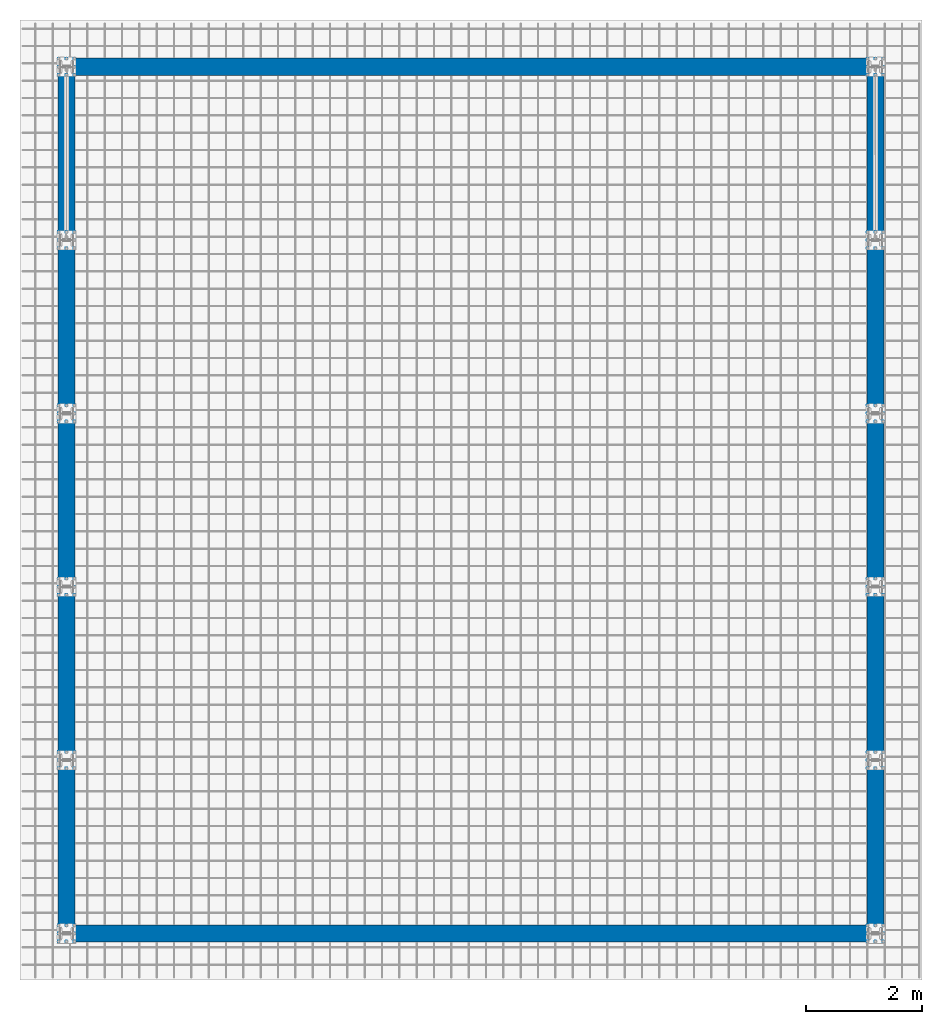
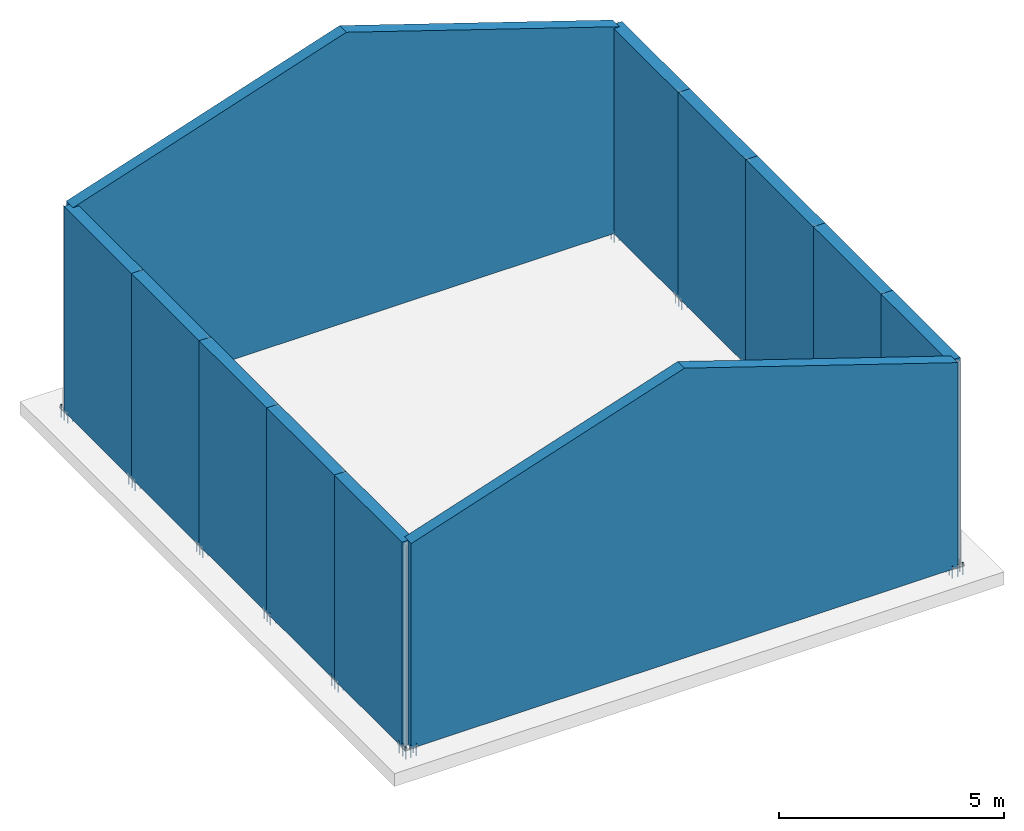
# One storey, part 4 of 29: 12 walls, 1 reinforcing bar.
"""IFC4 building model written with IfcOpenShell, lengths in metres."""

from ifc_helpers import new_model, entity, si_unit, frame, origin_with_axes, place, context, project, spatial, polyline, outline, extrude, source, transform, mapped, material, element, save


model = new_model("IFC4")

# Units and contexts
model_context = context("Model", 3, precision=1e-05, world=origin_with_axes())
ifc_project = project(units=[si_unit("LENGTHUNIT", "METRE"), si_unit("AREAUNIT", "SQUARE_METRE"), si_unit("VOLUMEUNIT", "CUBIC_METRE"), si_unit("MASSUNIT", "GRAM", prefix="KILO"), si_unit("TIMEUNIT", "SECOND"), si_unit("PLANEANGLEUNIT", "RADIAN"), si_unit("SOLIDANGLEUNIT", "STERADIAN"), si_unit("THERMODYNAMICTEMPERATUREUNIT", "DEGREE_CELSIUS")], contexts=[model_context])

# Site, building, storey
placement_1 = place(None, origin_with_axes())
site = spatial("IfcSite", under=ifc_project, at=placement_1, Name="Italia", CompositionType="ELEMENT")
building = spatial("IfcBuilding", under=site, at=placement_1, Name="Capannone", CompositionType="ELEMENT")
storey = spatial("IfcBuildingStorey", under=building, at=placement_1, Name="Storey 0", CompositionType="ELEMENT", Elevation=0.0)

# Walls
ifc_material_1 = material(Name="Tamponatura", Category="Tamponatura")
placement_2 = place(placement_1, origin_with_axes())
wall_1_placement = place(placement_2, origin_with_axes())
element("IfcWall", 1, at=wall_1_placement, inside=storey, material=ifc_material_1, Name="102", context=model_context, shape_type="SweptSolid", body=[
    extrude(outline(polyline([(0.0, 0.0), (0.0, 5.55), (-1.0, 5.87857), (-2.0, 6.20714), (-3.0, 6.53571), (-4.0, 6.86429), (-5.0, 7.19286), (-6.0, 7.52143), (-7.0, 7.85), (-8.0, 7.52143), (-9.0, 7.19286), (-10.0, 6.86429), (-11.0, 6.53571), (-12.0, 6.20714), (-13.0, 5.87857), (-14.0, 5.55), (-14.0, 0.0), (-13.5, 0.0), (-13.0, 0.0), (-12.5, 0.0), (-12.0, 0.0), (-11.5, 0.0), (-11.0, 0.0), (-10.5, 0.0), (-10.0, 0.0), (-9.5, 0.0), (-9.0, 0.0), (-8.5, 0.0), (-8.0, 0.0), (-7.5, 0.0), (-7.0, 0.0), (-6.5, 0.0), (-6.0, 0.0), (-5.5, 0.0), (-5.0, 0.0), (-4.5, 0.0), (-4.0, 0.0), (-3.5, 0.0), (-3.0, 0.0), (-2.5, 0.0), (-2.0, 0.0), (-1.5, 0.0), (-1.0, 0.0), (-0.5, 0.0), (0.0, 0.0)])), frame((14.0, 15.15, 0.0), z_axis=(0.0, -1.0, 0.0), x_axis=(1.0, 0.0, 0.0)), (0.0, 0.0, 1.0), 0.299999),
])
ifc_material_2 = material(Name="Tamponatura", Category="Tamponatura")
wall_2_placement = place(placement_2, origin_with_axes())
element("IfcWall", 2, at=wall_2_placement, inside=storey, material=ifc_material_2, Name="112", context=model_context, shape_type="SweptSolid", body=[
    extrude(outline(polyline([(0.0, 0.0), (-3.0, 0.0), (-3.0, -5.55), (-2.5, -5.55), (-2.0, -5.55), (-1.5, -5.55), (-1.0, -5.55), (-0.5, -5.55), (0.0, -5.55), (0.0, 0.0)])), frame((13.85, 15.0, 5.55), z_axis=(1.0, 0.0, 0.0), x_axis=(0.0, 1.0, 0.0)), (0.0, 0.0, 1.0), 0.299999),
])
ifc_material_3 = material(Name="Tamponatura", Category="Tamponatura")
wall_3_placement = place(placement_2, origin_with_axes())
element("IfcWall", 3, at=wall_3_placement, inside=storey, material=ifc_material_3, Name="101", context=model_context, shape_type="SweptSolid", body=[
    extrude(outline(polyline([(0.0, 0.0), (0.0, 5.55), (-1.0, 5.87857), (-2.0, 6.20714), (-3.0, 6.53571), (-4.0, 6.86429), (-5.0, 7.19286), (-6.0, 7.52143), (-7.0, 7.85), (-8.0, 7.52143), (-9.0, 7.19286), (-10.0, 6.86429), (-11.0, 6.53571), (-12.0, 6.20714), (-13.0, 5.87857), (-14.0, 5.55), (-14.0, 0.0), (-13.5, 0.0), (-13.0, 0.0), (-12.5, 0.0), (-12.0, 0.0), (-11.5, 0.0), (-11.0, 0.0), (-10.5, 0.0), (-10.0, 0.0), (-9.5, 0.0), (-9.0, 0.0), (-8.5, 0.0), (-8.0, 0.0), (-7.5, 0.0), (-7.0, 0.0), (-6.5, 0.0), (-6.0, 0.0), (-5.5, 0.0), (-5.0, 0.0), (-4.5, 0.0), (-4.0, 0.0), (-3.5, 0.0), (-3.0, 0.0), (-2.5, 0.0), (-2.0, 0.0), (-1.5, 0.0), (-1.0, 0.0), (-0.5, 0.0), (0.0, 0.0)])), frame((0.0, -0.15, 0.0), z_axis=(0.0, 1.0, 5.33876e-09), x_axis=(-1.0, 0.0, 0.0)), (0.0, 0.0, 1.0), 0.3),
])
ifc_material_4 = material(Name="Tamponatura", Category="Tamponatura")
wall_4_placement = place(placement_2, origin_with_axes())
element("IfcWall", 4, at=wall_4_placement, inside=storey, material=ifc_material_4, Name="111", context=model_context, shape_type="SweptSolid", body=[
    extrude(outline(polyline([(0.0, 0.0), (-3.0, 0.0), (-3.0, -5.55), (-2.5, -5.55), (-2.0, -5.55), (-1.5, -5.55), (-1.0, -5.55), (-0.5, -5.55), (0.0, -5.55), (0.0, 0.0)])), frame((13.85, 12.0, 5.55), z_axis=(1.0, 0.0, 0.0), x_axis=(0.0, 1.0, 0.0)), (0.0, 0.0, 1.0), 0.299999),
])
ifc_material_5 = material(Name="Tamponatura", Category="Tamponatura")
wall_5_placement = place(placement_2, origin_with_axes())
element("IfcWall", 5, at=wall_5_placement, inside=storey, material=ifc_material_5, Name="108", context=model_context, shape_type="SweptSolid", body=[
    extrude(outline(polyline([(0.0, 0.0), (-3.0, 0.0), (-3.0, -5.55), (-2.5, -5.55), (-2.0, -5.55), (-1.5, -5.55), (-1.0, -5.55), (-0.5, -5.55), (0.0, -5.55), (0.0, 0.0)])), frame((13.85, 3.0, 5.55), z_axis=(1.0, 0.0, 0.0), x_axis=(0.0, 1.0, 0.0)), (0.0, 0.0, 1.0), 0.299999),
])
ifc_material_6 = material(Name="Tamponatura", Category="Tamponatura")
wall_6_placement = place(placement_2, origin_with_axes())
element("IfcWall", 6, at=wall_6_placement, inside=storey, material=ifc_material_6, Name="103", context=model_context, shape_type="SweptSolid", body=[
    extrude(outline(polyline([(0.0, 0.0), (-3.0, 0.0), (-3.0, -5.55), (-2.5, -5.55), (-2.0, -5.55), (-1.5, -5.55), (-1.0, -5.55), (-0.5, -5.55), (0.0, -5.55), (0.0, 0.0)])), frame((-0.15, 3.0, 5.55), z_axis=(1.0, 0.0, 0.0), x_axis=(0.0, 1.0, 0.0)), (0.0, 0.0, 1.0), 0.3),
])
ifc_material_7 = material(Name="Tamponatura", Category="Tamponatura")
wall_7_placement = place(placement_2, origin_with_axes())
element("IfcWall", 7, at=wall_7_placement, inside=storey, material=ifc_material_7, Name="104", context=model_context, shape_type="SweptSolid", body=[
    extrude(outline(polyline([(0.0, 0.0), (-3.0, 0.0), (-3.0, -5.55), (-2.5, -5.55), (-2.0, -5.55), (-1.5, -5.55), (-1.0, -5.55), (-0.5, -5.55), (0.0, -5.55), (0.0, 0.0)])), frame((-0.15, 6.0, 5.55), z_axis=(1.0, 0.0, 0.0), x_axis=(0.0, 1.0, 0.0)), (0.0, 0.0, 1.0), 0.3),
])
ifc_material_8 = material(Name="Tamponatura", Category="Tamponatura")
wall_8_placement = place(placement_2, origin_with_axes())
element("IfcWall", 8, at=wall_8_placement, inside=storey, material=ifc_material_8, Name="105", context=model_context, shape_type="SweptSolid", body=[
    extrude(outline(polyline([(0.0, 0.0), (-3.0, 0.0), (-3.0, -5.55), (-2.5, -5.55), (-2.0, -5.55), (-1.5, -5.55), (-1.0, -5.55), (-0.5, -5.55), (0.0, -5.55), (0.0, 0.0)])), frame((-0.15, 9.0, 5.55), z_axis=(1.0, 0.0, 0.0), x_axis=(0.0, 1.0, 0.0)), (0.0, 0.0, 1.0), 0.3),
])
ifc_material_9 = material(Name="Tamponatura", Category="Tamponatura")
wall_9_placement = place(placement_2, origin_with_axes())
element("IfcWall", 9, at=wall_9_placement, inside=storey, material=ifc_material_9, Name="106", context=model_context, shape_type="SweptSolid", body=[
    extrude(outline(polyline([(0.0, 0.0), (-3.0, 0.0), (-3.0, -5.55), (-2.5, -5.55), (-2.0, -5.55), (-1.5, -5.55), (-1.0, -5.55), (-0.5, -5.55), (0.0, -5.55), (0.0, 0.0)])), frame((-0.15, 12.0, 5.55), z_axis=(1.0, 0.0, 0.0), x_axis=(0.0, 1.0, 0.0)), (0.0, 0.0, 1.0), 0.3),
])
ifc_material_10 = material(Name="Tamponatura", Category="Tamponatura")
wall_10_placement = place(placement_2, origin_with_axes())
element("IfcWall", 10, at=wall_10_placement, inside=storey, material=ifc_material_10, Name="107", context=model_context, shape_type="SweptSolid", body=[
    extrude(outline(polyline([(0.0, 0.0), (-3.0, 0.0), (-3.0, -5.55), (-2.5, -5.55), (-2.0, -5.55), (-1.5, -5.55), (-1.0, -5.55), (-0.5, -5.55), (0.0, -5.55), (0.0, 0.0)])), frame((-0.15, 15.0, 5.55), z_axis=(1.0, 0.0, 0.0), x_axis=(0.0, 1.0, 0.0)), (0.0, 0.0, 1.0), 0.3),
])
ifc_material_11 = material(Name="Tamponatura", Category="Tamponatura")
wall_11_placement = place(placement_2, origin_with_axes())
element("IfcWall", 11, at=wall_11_placement, inside=storey, material=ifc_material_11, Name="110", context=model_context, shape_type="SweptSolid", body=[
    extrude(outline(polyline([(0.0, 0.0), (-3.0, 0.0), (-3.0, -5.55), (-2.5, -5.55), (-2.0, -5.55), (-1.5, -5.55), (-1.0, -5.55), (-0.5, -5.55), (0.0, -5.55), (0.0, 0.0)])), frame((13.85, 9.0, 5.55), z_axis=(1.0, 0.0, 0.0), x_axis=(0.0, 1.0, 0.0)), (0.0, 0.0, 1.0), 0.299999),
])
ifc_material_12 = material(Name="Tamponatura", Category="Tamponatura")
wall_12_placement = place(placement_2, origin_with_axes())
element("IfcWall", 12, at=wall_12_placement, inside=storey, material=ifc_material_12, Name="109", context=model_context, shape_type="SweptSolid", body=[
    extrude(outline(polyline([(0.0, 0.0), (-3.0, 0.0), (-3.0, -5.55), (-2.5, -5.55), (-2.0, -5.55), (-1.5, -5.55), (-1.0, -5.55), (-0.5, -5.55), (0.0, -5.55), (0.0, 0.0)])), frame((13.85, 6.0, 5.55), z_axis=(1.0, 0.0, 0.0), x_axis=(0.0, 1.0, 0.0)), (0.0, 0.0, 1.0), 0.299999),
])

# Reinforcing bar
shared_shape = source(origin_with_axes(), model_context, "Body", "AdvancedSweptSolid", [
    entity("IfcSweptDiskSolid", entity("IfcIndexedPolyCurve", entity("IfcCartesianPointList3D", [[0.135, -0.14, 0.09], [0.135, -0.14, -0.243]]), [entity("IfcLineIndex", [1, 2])], False), 0.011),
])
reinforcing_bar_placement = place(placement_2, origin_with_axes())
element("IfcReinforcingBar", 13, at=reinforcing_bar_placement, inside=storey, BarLength=0.333, CrossSectionArea=0.00038013, NominalDiameter=0.022, context=model_context, shape_type="MappedRepresentation", body=[
    mapped(shared_shape, transform((0.0, 6.0, 0.0), x_axis=(1.0, 0.0, 0.0), y_axis=(0.0, 1.0, 0.0), z_axis=(0.0, 0.0, 1.0), scale=1.0)),
    mapped(shared_shape, transform((13.73, 3.28, 0.0), x_axis=(1.0, 0.0, 0.0), y_axis=(0.0, 1.0, 0.0), z_axis=(0.0, 0.0, 1.0), scale=1.0)),
    mapped(shared_shape, transform((13.73, 3.14, 0.0), x_axis=(1.0, 0.0, 0.0), y_axis=(0.0, 1.0, 0.0), z_axis=(0.0, 0.0, 1.0), scale=1.0)),
    mapped(shared_shape, transform((-0.135, 6.0, 0.0), x_axis=(1.0, 0.0, 0.0), y_axis=(0.0, 1.0, 0.0), z_axis=(0.0, 0.0, 1.0), scale=1.0)),
    mapped(shared_shape, transform((0.0, 6.28, 0.0), x_axis=(1.0, 0.0, 0.0), y_axis=(0.0, 1.0, 0.0), z_axis=(0.0, 0.0, 1.0), scale=1.0)),
    mapped(shared_shape, transform((0.0, 6.14, 0.0), x_axis=(1.0, 0.0, 0.0), y_axis=(0.0, 1.0, 0.0), z_axis=(0.0, 0.0, 1.0), scale=1.0)),
    mapped(shared_shape, transform((14.0, 3.28, 0.0), x_axis=(1.0, 0.0, 0.0), y_axis=(0.0, 1.0, 0.0), z_axis=(0.0, 0.0, 1.0), scale=1.0)),
    mapped(shared_shape, transform((14.0, 3.14, 0.0), x_axis=(1.0, 0.0, 0.0), y_axis=(0.0, 1.0, 0.0), z_axis=(0.0, 0.0, 1.0), scale=1.0)),
    mapped(shared_shape, transform((14.0, 3.0, 0.0), x_axis=(1.0, 0.0, 0.0), y_axis=(0.0, 1.0, 0.0), z_axis=(0.0, 0.0, 1.0), scale=1.0)),
    mapped(shared_shape, transform((13.73, 3.0, 0.0), x_axis=(1.0, 0.0, 0.0), y_axis=(0.0, 1.0, 0.0), z_axis=(0.0, 0.0, 1.0), scale=1.0)),
    mapped(shared_shape, transform((13.865, 3.28, 0.0), x_axis=(1.0, 0.0, 0.0), y_axis=(0.0, 1.0, 0.0), z_axis=(0.0, 0.0, 1.0), scale=1.0)),
    mapped(shared_shape, transform((13.865, 3.0, 0.0), x_axis=(1.0, 0.0, 0.0), y_axis=(0.0, 1.0, 0.0), z_axis=(0.0, 0.0, 1.0), scale=1.0)),
    mapped(shared_shape, transform((13.865, 6.28, 0.0), x_axis=(1.0, 0.0, 0.0), y_axis=(0.0, 1.0, 0.0), z_axis=(0.0, 0.0, 1.0), scale=1.0)),
    mapped(shared_shape, transform((13.865, 6.0, 0.0), x_axis=(1.0, 0.0, 0.0), y_axis=(0.0, 1.0, 0.0), z_axis=(0.0, 0.0, 1.0), scale=1.0)),
    mapped(shared_shape, transform((14.0, 6.28, 0.0), x_axis=(1.0, 0.0, 0.0), y_axis=(0.0, 1.0, 0.0), z_axis=(0.0, 0.0, 1.0), scale=1.0)),
    mapped(shared_shape, transform((13.73, 6.28, 0.0), x_axis=(1.0, 0.0, 0.0), y_axis=(0.0, 1.0, 0.0), z_axis=(0.0, 0.0, 1.0), scale=1.0)),
    mapped(shared_shape, transform((13.73, 6.14, 0.0), x_axis=(1.0, 0.0, 0.0), y_axis=(0.0, 1.0, 0.0), z_axis=(0.0, 0.0, 1.0), scale=1.0)),
    mapped(shared_shape, transform((13.73, 6.0, 0.0), x_axis=(1.0, 0.0, 0.0), y_axis=(0.0, 1.0, 0.0), z_axis=(0.0, 0.0, 1.0), scale=1.0)),
    mapped(shared_shape, transform((-0.27, 6.14, 0.0), x_axis=(1.0, 0.0, 0.0), y_axis=(0.0, 1.0, 0.0), z_axis=(0.0, 0.0, 1.0), scale=1.0)),
    mapped(shared_shape, transform((-0.27, 6.0, 0.0), x_axis=(1.0, 0.0, 0.0), y_axis=(0.0, 1.0, 0.0), z_axis=(0.0, 0.0, 1.0), scale=1.0)),
    mapped(shared_shape, transform((-0.135, 6.28, 0.0), x_axis=(1.0, 0.0, 0.0), y_axis=(0.0, 1.0, 0.0), z_axis=(0.0, 0.0, 1.0), scale=1.0)),
    mapped(shared_shape, transform((14.0, 6.14, 0.0), x_axis=(1.0, 0.0, 0.0), y_axis=(0.0, 1.0, 0.0), z_axis=(0.0, 0.0, 1.0), scale=1.0)),
    mapped(shared_shape, transform((14.0, 6.0, 0.0), x_axis=(1.0, 0.0, 0.0), y_axis=(0.0, 1.0, 0.0), z_axis=(0.0, 0.0, 1.0), scale=1.0)),
    mapped(shared_shape, transform((-0.27, 6.28, 0.0), x_axis=(1.0, 0.0, 0.0), y_axis=(0.0, 1.0, 0.0), z_axis=(0.0, 0.0, 1.0), scale=1.0)),
    mapped(shared_shape, transform((14.0, 0.0, 0.0), x_axis=(1.0, 0.0, 0.0), y_axis=(0.0, 1.0, 0.0), z_axis=(0.0, 0.0, 1.0), scale=1.0)),
    mapped(shared_shape, transform((-0.27, 0.28, 0.0), x_axis=(1.0, 0.0, 0.0), y_axis=(0.0, 1.0, 0.0), z_axis=(0.0, 0.0, 1.0), scale=1.0)),
    mapped(shared_shape, transform((-0.27, 0.14, 0.0), x_axis=(1.0, 0.0, 0.0), y_axis=(0.0, 1.0, 0.0), z_axis=(0.0, 0.0, 1.0), scale=1.0)),
    mapped(shared_shape, transform((13.865, 0.0, 0.0), x_axis=(1.0, 0.0, 0.0), y_axis=(0.0, 1.0, 0.0), z_axis=(0.0, 0.0, 1.0), scale=1.0)),
    mapped(shared_shape, transform((14.0, 0.28, 0.0), x_axis=(1.0, 0.0, 0.0), y_axis=(0.0, 1.0, 0.0), z_axis=(0.0, 0.0, 1.0), scale=1.0)),
    mapped(shared_shape, transform((14.0, 0.14, 0.0), x_axis=(1.0, 0.0, 0.0), y_axis=(0.0, 1.0, 0.0), z_axis=(0.0, 0.0, 1.0), scale=1.0)),
    mapped(shared_shape, transform((0.0, 0.28, 0.0), x_axis=(1.0, 0.0, 0.0), y_axis=(0.0, 1.0, 0.0), z_axis=(0.0, 0.0, 1.0), scale=1.0)),
    mapped(shared_shape, transform((0.0, 0.14, 0.0), x_axis=(1.0, 0.0, 0.0), y_axis=(0.0, 1.0, 0.0), z_axis=(0.0, 0.0, 1.0), scale=1.0)),
    mapped(shared_shape, transform((0.0, 0.0, 0.0), x_axis=(1.0, 0.0, 0.0), y_axis=(0.0, 1.0, 0.0), z_axis=(0.0, 0.0, 1.0), scale=1.0)),
    mapped(shared_shape, transform((-0.27, 0.0, 0.0), x_axis=(1.0, 0.0, 0.0), y_axis=(0.0, 1.0, 0.0), z_axis=(0.0, 0.0, 1.0), scale=1.0)),
    mapped(shared_shape, transform((-0.135, 0.28, 0.0), x_axis=(1.0, 0.0, 0.0), y_axis=(0.0, 1.0, 0.0), z_axis=(0.0, 0.0, 1.0), scale=1.0)),
    mapped(shared_shape, transform((-0.135, 0.0, 0.0), x_axis=(1.0, 0.0, 0.0), y_axis=(0.0, 1.0, 0.0), z_axis=(0.0, 0.0, 1.0), scale=1.0)),
    mapped(shared_shape, transform((-0.135, 3.28, 0.0), x_axis=(1.0, 0.0, 0.0), y_axis=(0.0, 1.0, 0.0), z_axis=(0.0, 0.0, 1.0), scale=1.0)),
    mapped(shared_shape, transform((-0.135, 3.0, 0.0), x_axis=(1.0, 0.0, 0.0), y_axis=(0.0, 1.0, 0.0), z_axis=(0.0, 0.0, 1.0), scale=1.0)),
    mapped(shared_shape, transform((0.0, 3.28, 0.0), x_axis=(1.0, 0.0, 0.0), y_axis=(0.0, 1.0, 0.0), z_axis=(0.0, 0.0, 1.0), scale=1.0)),
    mapped(shared_shape, transform((-0.27, 3.28, 0.0), x_axis=(1.0, 0.0, 0.0), y_axis=(0.0, 1.0, 0.0), z_axis=(0.0, 0.0, 1.0), scale=1.0)),
    mapped(shared_shape, transform((-0.27, 3.14, 0.0), x_axis=(1.0, 0.0, 0.0), y_axis=(0.0, 1.0, 0.0), z_axis=(0.0, 0.0, 1.0), scale=1.0)),
    mapped(shared_shape, transform((-0.27, 3.0, 0.0), x_axis=(1.0, 0.0, 0.0), y_axis=(0.0, 1.0, 0.0), z_axis=(0.0, 0.0, 1.0), scale=1.0)),
    mapped(shared_shape, transform((13.73, 0.14, 0.0), x_axis=(1.0, 0.0, 0.0), y_axis=(0.0, 1.0, 0.0), z_axis=(0.0, 0.0, 1.0), scale=1.0)),
    mapped(shared_shape, transform((13.73, 0.0, 0.0), x_axis=(1.0, 0.0, 0.0), y_axis=(0.0, 1.0, 0.0), z_axis=(0.0, 0.0, 1.0), scale=1.0)),
    mapped(shared_shape, transform((13.865, 0.28, 0.0), x_axis=(1.0, 0.0, 0.0), y_axis=(0.0, 1.0, 0.0), z_axis=(0.0, 0.0, 1.0), scale=1.0)),
    mapped(shared_shape, transform((0.0, 3.14, 0.0), x_axis=(1.0, 0.0, 0.0), y_axis=(0.0, 1.0, 0.0), z_axis=(0.0, 0.0, 1.0), scale=1.0)),
    mapped(shared_shape, transform((0.0, 3.0, 0.0), x_axis=(1.0, 0.0, 0.0), y_axis=(0.0, 1.0, 0.0), z_axis=(0.0, 0.0, 1.0), scale=1.0)),
    mapped(shared_shape, transform((13.73, 0.28, 0.0), x_axis=(1.0, 0.0, 0.0), y_axis=(0.0, 1.0, 0.0), z_axis=(0.0, 0.0, 1.0), scale=1.0)),
    mapped(shared_shape, transform((0.0, 15.0, 0.0), x_axis=(1.0, 0.0, 0.0), y_axis=(0.0, 1.0, 0.0), z_axis=(0.0, 0.0, 1.0), scale=1.0)),
    mapped(shared_shape, transform((13.73, 12.28, 0.0), x_axis=(1.0, 0.0, 0.0), y_axis=(0.0, 1.0, 0.0), z_axis=(0.0, 0.0, 1.0), scale=1.0)),
    mapped(shared_shape, transform((13.73, 12.14, 0.0), x_axis=(1.0, 0.0, 0.0), y_axis=(0.0, 1.0, 0.0), z_axis=(0.0, 0.0, 1.0), scale=1.0)),
    mapped(shared_shape, transform((-0.135, 15.0, 0.0), x_axis=(1.0, 0.0, 0.0), y_axis=(0.0, 1.0, 0.0), z_axis=(0.0, 0.0, 1.0), scale=1.0)),
    mapped(shared_shape, transform((0.0, 15.28, 0.0), x_axis=(1.0, 0.0, 0.0), y_axis=(0.0, 1.0, 0.0), z_axis=(0.0, 0.0, 1.0), scale=1.0)),
    mapped(shared_shape, transform((0.0, 15.14, 0.0), x_axis=(1.0, 0.0, 0.0), y_axis=(0.0, 1.0, 0.0), z_axis=(0.0, 0.0, 1.0), scale=1.0)),
    mapped(shared_shape, transform((14.0, 12.28, 0.0), x_axis=(1.0, 0.0, 0.0), y_axis=(0.0, 1.0, 0.0), z_axis=(0.0, 0.0, 1.0), scale=1.0)),
    mapped(shared_shape, transform((14.0, 12.14, 0.0), x_axis=(1.0, 0.0, 0.0), y_axis=(0.0, 1.0, 0.0), z_axis=(0.0, 0.0, 1.0), scale=1.0)),
    mapped(shared_shape, transform((14.0, 12.0, 0.0), x_axis=(1.0, 0.0, 0.0), y_axis=(0.0, 1.0, 0.0), z_axis=(0.0, 0.0, 1.0), scale=1.0)),
    mapped(shared_shape, transform((13.73, 12.0, 0.0), x_axis=(1.0, 0.0, 0.0), y_axis=(0.0, 1.0, 0.0), z_axis=(0.0, 0.0, 1.0), scale=1.0)),
    mapped(shared_shape, transform((13.865, 12.28, 0.0), x_axis=(1.0, 0.0, 0.0), y_axis=(0.0, 1.0, 0.0), z_axis=(0.0, 0.0, 1.0), scale=1.0)),
    mapped(shared_shape, transform((13.865, 12.0, 0.0), x_axis=(1.0, 0.0, 0.0), y_axis=(0.0, 1.0, 0.0), z_axis=(0.0, 0.0, 1.0), scale=1.0)),
    mapped(shared_shape, transform((13.865, 15.28, 0.0), x_axis=(1.0, 0.0, 0.0), y_axis=(0.0, 1.0, 0.0), z_axis=(0.0, 0.0, 1.0), scale=1.0)),
    mapped(shared_shape, transform((13.865, 15.0, 0.0), x_axis=(1.0, 0.0, 0.0), y_axis=(0.0, 1.0, 0.0), z_axis=(0.0, 0.0, 1.0), scale=1.0)),
    mapped(shared_shape, transform((14.0, 15.28, 0.0), x_axis=(1.0, 0.0, 0.0), y_axis=(0.0, 1.0, 0.0), z_axis=(0.0, 0.0, 1.0), scale=1.0)),
    mapped(shared_shape, transform((13.73, 15.28, 0.0), x_axis=(1.0, 0.0, 0.0), y_axis=(0.0, 1.0, 0.0), z_axis=(0.0, 0.0, 1.0), scale=1.0)),
    mapped(shared_shape, transform((13.73, 15.14, 0.0), x_axis=(1.0, 0.0, 0.0), y_axis=(0.0, 1.0, 0.0), z_axis=(0.0, 0.0, 1.0), scale=1.0)),
    mapped(shared_shape, transform((13.73, 15.0, 0.0), x_axis=(1.0, 0.0, 0.0), y_axis=(0.0, 1.0, 0.0), z_axis=(0.0, 0.0, 1.0), scale=1.0)),
    mapped(shared_shape, transform((-0.27, 15.14, 0.0), x_axis=(1.0, 0.0, 0.0), y_axis=(0.0, 1.0, 0.0), z_axis=(0.0, 0.0, 1.0), scale=1.0)),
    mapped(shared_shape, transform((-0.27, 15.0, 0.0), x_axis=(1.0, 0.0, 0.0), y_axis=(0.0, 1.0, 0.0), z_axis=(0.0, 0.0, 1.0), scale=1.0)),
    mapped(shared_shape, transform((-0.135, 15.28, 0.0), x_axis=(1.0, 0.0, 0.0), y_axis=(0.0, 1.0, 0.0), z_axis=(0.0, 0.0, 1.0), scale=1.0)),
    mapped(shared_shape, transform((14.0, 15.14, 0.0), x_axis=(1.0, 0.0, 0.0), y_axis=(0.0, 1.0, 0.0), z_axis=(0.0, 0.0, 1.0), scale=1.0)),
    mapped(shared_shape, transform((14.0, 15.0, 0.0), x_axis=(1.0, 0.0, 0.0), y_axis=(0.0, 1.0, 0.0), z_axis=(0.0, 0.0, 1.0), scale=1.0)),
    mapped(shared_shape, transform((-0.27, 15.28, 0.0), x_axis=(1.0, 0.0, 0.0), y_axis=(0.0, 1.0, 0.0), z_axis=(0.0, 0.0, 1.0), scale=1.0)),
    mapped(shared_shape, transform((14.0, 9.0, 0.0), x_axis=(1.0, 0.0, 0.0), y_axis=(0.0, 1.0, 0.0), z_axis=(0.0, 0.0, 1.0), scale=1.0)),
    mapped(shared_shape, transform((-0.27, 9.28, 0.0), x_axis=(1.0, 0.0, 0.0), y_axis=(0.0, 1.0, 0.0), z_axis=(0.0, 0.0, 1.0), scale=1.0)),
    mapped(shared_shape, transform((-0.27, 9.14, 0.0), x_axis=(1.0, 0.0, 0.0), y_axis=(0.0, 1.0, 0.0), z_axis=(0.0, 0.0, 1.0), scale=1.0)),
    mapped(shared_shape, transform((13.865, 9.0, 0.0), x_axis=(1.0, 0.0, 0.0), y_axis=(0.0, 1.0, 0.0), z_axis=(0.0, 0.0, 1.0), scale=1.0)),
    mapped(shared_shape, transform((14.0, 9.28, 0.0), x_axis=(1.0, 0.0, 0.0), y_axis=(0.0, 1.0, 0.0), z_axis=(0.0, 0.0, 1.0), scale=1.0)),
    mapped(shared_shape, transform((14.0, 9.14, 0.0), x_axis=(1.0, 0.0, 0.0), y_axis=(0.0, 1.0, 0.0), z_axis=(0.0, 0.0, 1.0), scale=1.0)),
    mapped(shared_shape, transform((0.0, 9.28, 0.0), x_axis=(1.0, 0.0, 0.0), y_axis=(0.0, 1.0, 0.0), z_axis=(0.0, 0.0, 1.0), scale=1.0)),
    mapped(shared_shape, transform((0.0, 9.14, 0.0), x_axis=(1.0, 0.0, 0.0), y_axis=(0.0, 1.0, 0.0), z_axis=(0.0, 0.0, 1.0), scale=1.0)),
    mapped(shared_shape, transform((0.0, 9.0, 0.0), x_axis=(1.0, 0.0, 0.0), y_axis=(0.0, 1.0, 0.0), z_axis=(0.0, 0.0, 1.0), scale=1.0)),
    mapped(shared_shape, transform((-0.27, 9.0, 0.0), x_axis=(1.0, 0.0, 0.0), y_axis=(0.0, 1.0, 0.0), z_axis=(0.0, 0.0, 1.0), scale=1.0)),
    mapped(shared_shape, transform((-0.135, 9.28, 0.0), x_axis=(1.0, 0.0, 0.0), y_axis=(0.0, 1.0, 0.0), z_axis=(0.0, 0.0, 1.0), scale=1.0)),
    mapped(shared_shape, transform((-0.135, 9.0, 0.0), x_axis=(1.0, 0.0, 0.0), y_axis=(0.0, 1.0, 0.0), z_axis=(0.0, 0.0, 1.0), scale=1.0)),
    mapped(shared_shape, transform((-0.135, 12.28, 0.0), x_axis=(1.0, 0.0, 0.0), y_axis=(0.0, 1.0, 0.0), z_axis=(0.0, 0.0, 1.0), scale=1.0)),
    mapped(shared_shape, transform((-0.135, 12.0, 0.0), x_axis=(1.0, 0.0, 0.0), y_axis=(0.0, 1.0, 0.0), z_axis=(0.0, 0.0, 1.0), scale=1.0)),
    mapped(shared_shape, transform((0.0, 12.28, 0.0), x_axis=(1.0, 0.0, 0.0), y_axis=(0.0, 1.0, 0.0), z_axis=(0.0, 0.0, 1.0), scale=1.0)),
    mapped(shared_shape, transform((-0.27, 12.28, 0.0), x_axis=(1.0, 0.0, 0.0), y_axis=(0.0, 1.0, 0.0), z_axis=(0.0, 0.0, 1.0), scale=1.0)),
    mapped(shared_shape, transform((-0.27, 12.14, 0.0), x_axis=(1.0, 0.0, 0.0), y_axis=(0.0, 1.0, 0.0), z_axis=(0.0, 0.0, 1.0), scale=1.0)),
    mapped(shared_shape, transform((-0.27, 12.0, 0.0), x_axis=(1.0, 0.0, 0.0), y_axis=(0.0, 1.0, 0.0), z_axis=(0.0, 0.0, 1.0), scale=1.0)),
    mapped(shared_shape, transform((13.73, 9.14, 0.0), x_axis=(1.0, 0.0, 0.0), y_axis=(0.0, 1.0, 0.0), z_axis=(0.0, 0.0, 1.0), scale=1.0)),
    mapped(shared_shape, transform((13.73, 9.0, 0.0), x_axis=(1.0, 0.0, 0.0), y_axis=(0.0, 1.0, 0.0), z_axis=(0.0, 0.0, 1.0), scale=1.0)),
    mapped(shared_shape, transform((13.865, 9.28, 0.0), x_axis=(1.0, 0.0, 0.0), y_axis=(0.0, 1.0, 0.0), z_axis=(0.0, 0.0, 1.0), scale=1.0)),
    mapped(shared_shape, transform((0.0, 12.14, 0.0), x_axis=(1.0, 0.0, 0.0), y_axis=(0.0, 1.0, 0.0), z_axis=(0.0, 0.0, 1.0), scale=1.0)),
    mapped(shared_shape, transform((0.0, 12.0, 0.0), x_axis=(1.0, 0.0, 0.0), y_axis=(0.0, 1.0, 0.0), z_axis=(0.0, 0.0, 1.0), scale=1.0)),
    mapped(shared_shape, transform((13.73, 9.28, 0.0), x_axis=(1.0, 0.0, 0.0), y_axis=(0.0, 1.0, 0.0), z_axis=(0.0, 0.0, 1.0), scale=1.0)),
])

save(model, "model.ifc")
